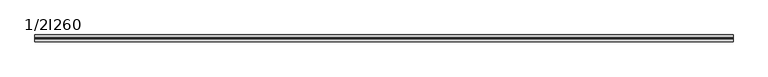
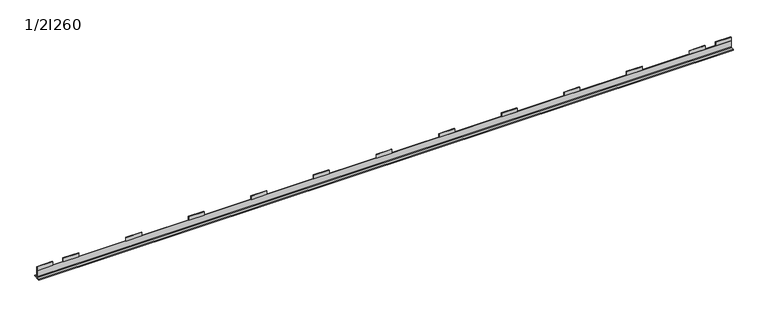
"""IFC4 building model written with IfcOpenShell, lengths in millimetres: beam geometry, Wzmocnienie do belek - dokładny podział : 1/2I260."""

from ifc_helpers import new_model, si_unit, point, frame, frame_2d, origin, place, context, project, spatial, polyline, circle_curve, trimmed, segment, composite_curve, outline, extrude, source, transform, mapped, element, save


def beam_1_2i260_bf52fc8e(model_context):
    return source(origin(), model_context, "Body", "SweptSolid", [
        extrude(outline(polyline([(9460.5, -5.5), (9460.5, 5.5), (9710.5, 5.5), (9710.5, -5.5), (9460.5, -5.5)])), frame((0.0, 0.0, -60.0), z_axis=(0.0, 0.0, 1.0), x_axis=(1.0, 0.0, 0.0)), (0.0, 0.0, 1.0), 60.0),
        extrude(outline(polyline([(8456.0, -5.5), (8456.0, 5.5), (8706.0, 5.5), (8706.0, -5.5), (8456.0, -5.5)])), frame((0.0, 0.0, -60.0), z_axis=(0.0, 0.0, 1.0), x_axis=(1.0, 0.0, 0.0)), (0.0, 0.0, 1.0), 60.0),
        extrude(outline(polyline([(7451.5, -5.5), (7451.5, 5.5), (7701.5, 5.5), (7701.5, -5.5), (7451.5, -5.5)])), frame((0.0, 0.0, -60.0), z_axis=(0.0, 0.0, 1.0), x_axis=(1.0, 0.0, 0.0)), (0.0, 0.0, 1.0), 60.0),
        extrude(outline(polyline([(6447.0, -5.5), (6447.0, 5.5), (6697.0, 5.5), (6697.0, -5.5), (6447.0, -5.5)])), frame((0.0, 0.0, -60.0), z_axis=(0.0, 0.0, 1.0), x_axis=(1.0, 0.0, 0.0)), (0.0, 0.0, 1.0), 60.0),
        extrude(outline(polyline([(5442.5, -5.5), (5442.5, 5.5), (5692.5, 5.5), (5692.5, -5.5), (5442.5, -5.5)])), frame((0.0, 0.0, -60.0), z_axis=(0.0, 0.0, 1.0), x_axis=(1.0, 0.0, 0.0)), (0.0, 0.0, 1.0), 60.0),
        extrude(outline(polyline([(4438.0, -5.5), (4438.0, 5.5), (4688.0, 5.5), (4688.0, -5.5), (4438.0, -5.5)])), frame((0.0, 0.0, -60.0), z_axis=(0.0, 0.0, 1.0), x_axis=(1.0, 0.0, 0.0)), (0.0, 0.0, 1.0), 60.0),
        extrude(outline(polyline([(3433.5, -5.5), (3433.5, 5.5), (3683.5, 5.5), (3683.5, -5.5), (3433.5, -5.5)])), frame((0.0, 0.0, -60.0), z_axis=(0.0, 0.0, 1.0), x_axis=(1.0, 0.0, 0.0)), (0.0, 0.0, 1.0), 60.0),
        extrude(outline(polyline([(2429.0, -5.5), (2429.0, 5.5), (2679.0, 5.5), (2679.0, -5.5), (2429.0, -5.5)])), frame((0.0, 0.0, -60.0), z_axis=(0.0, 0.0, 1.0), x_axis=(1.0, 0.0, 0.0)), (0.0, 0.0, 1.0), 60.0),
        extrude(outline(polyline([(1424.5, -5.5), (1424.5, 5.5), (1674.5, 5.5), (1674.5, -5.5), (1424.5, -5.5)])), frame((0.0, 0.0, -60.0), z_axis=(0.0, 0.0, 1.0), x_axis=(1.0, 0.0, 0.0)), (0.0, 0.0, 1.0), 60.0),
        extrude(outline(polyline([(10465.0, -5.5), (10465.0, 5.5), (10715.0, 5.5), (10715.0, -5.5), (10465.0, -5.5)])), frame((0.0, 0.0, -60.0), z_axis=(0.0, 0.0, 1.0), x_axis=(1.0, 0.0, 0.0)), (0.0, 0.0, 1.0), 60.0),
        extrude(outline(polyline([(420.0, -5.5), (420.0, 5.5), (670.0, 5.5), (670.0, -5.5), (420.0, -5.5)])), frame((0.0, 0.0, -60.0), z_axis=(0.0, 0.0, 1.0), x_axis=(1.0, 0.0, 0.0)), (0.0, 0.0, 1.0), 60.0),
        extrude(outline(polyline([(10885.0, -5.5), (10885.0, 5.5), (11135.0, 5.5), (11135.0, -5.5), (10885.0, -5.5)])), frame((0.0, 0.0, -60.0), z_axis=(0.0, 0.0, 1.0), x_axis=(1.0, 0.0, 0.0)), (0.0, 0.0, 1.0), 60.0),
        extrude(outline(polyline([(0.0, -5.5), (0.0, 5.5), (250.0, 5.5), (250.0, -5.5), (0.0, -5.5)])), frame((0.0, 0.0, -60.0), z_axis=(0.0, 0.0, 1.0), x_axis=(1.0, 0.0, 0.0)), (0.0, 0.0, 1.0), 60.0),
        extrude(outline(composite_curve([segment(polyline([(56.5, -190.0), (-56.5, -190.0), (-56.5, -175.9), (-14.1, -175.9)]), True, "CONTINUOUS"), segment(trimmed(circle_curve(frame_2d((-14.1, -166.5)), 9.4), [point((-14.1, -175.9))], [point((-4.7, -166.5))], True, "CARTESIAN"), True, "CONTINUOUS"), segment(polyline([(-4.7, -166.5), (-4.7, -60.0), (4.7, -60.0), (4.7, -166.5)]), True, "CONTINUOUS"), segment(trimmed(circle_curve(frame_2d((14.1, -166.5)), 9.4), [point((4.7, -166.5))], [point((14.1, -175.9))], True, "CARTESIAN"), True, "CONTINUOUS"), segment(polyline([(14.1, -175.9), (56.5, -175.9), (56.5, -190.0)]), True, "CONTINUOUS")], self_intersect=False)), frame((0.0, 0.0, 0.0), z_axis=(1.0, 0.0, 0.0), x_axis=(0.0, 1.0, 0.0)), (0.0, 0.0, 1.0), 11135.0),
    ])


if __name__ == "__main__":
    model = new_model("IFC4")
    model_context = context("Model", 3, world=origin())
    ifc_project = project(units=[si_unit("LENGTHUNIT", "METRE", prefix="MILLI")], contexts=[model_context])
    site = spatial("IfcSite", under=ifc_project)
    building = spatial("IfcBuilding", under=site)
    placement = place(None, origin())
    beam_1_2i260_shape = beam_1_2i260_bf52fc8e(model_context)
    element("IfcBeam", 1, ObjectType="Wzmocnienie do belek - dokładny podział : 1/2I260", at=placement, inside=building, context=model_context, shape_type="MappedRepresentation", body=[
        mapped(beam_1_2i260_shape, transform((0.0, 0.0, 0.0), x_axis=(1.0, 0.0, 0.0), y_axis=(0.0, 1.0, 0.0), z_axis=(0.0, 0.0, 1.0))),
    ])
    save(model, "model.ifc")
